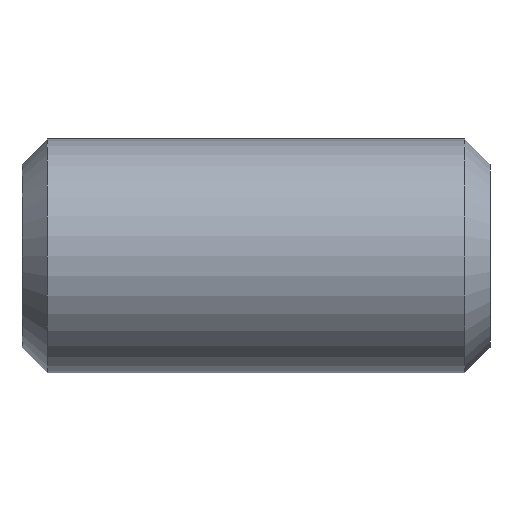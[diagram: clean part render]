
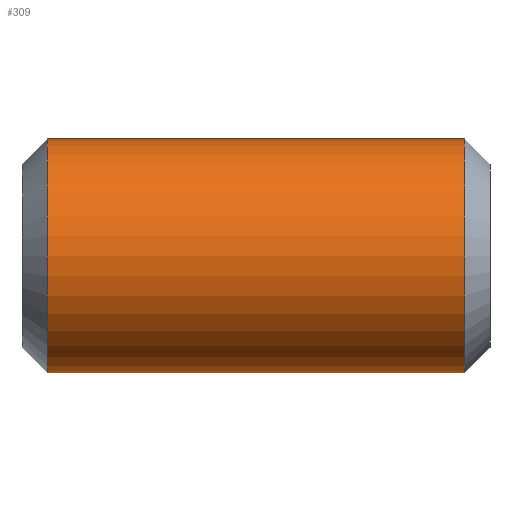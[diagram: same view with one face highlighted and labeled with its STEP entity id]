
A CAD part, left-side view. The second image highlights one B-rep face of the part: STEP entity #309.
In plain terms, the highlighted cylindrical face has radius 3 mm (diameter 6 mm), a full revolution.
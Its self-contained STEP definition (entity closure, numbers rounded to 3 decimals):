
#21=CYLINDRICAL_SURFACE('',#346,3.);
#84=ORIENTED_EDGE('',*,*,#159,.F.);
#85=ORIENTED_EDGE('',*,*,#158,.T.);
#158=EDGE_CURVE('',#196,#196,#217,.T.);
#159=EDGE_CURVE('',#197,#197,#218,.T.);
#196=VERTEX_POINT('',#494);
#197=VERTEX_POINT('',#497);
#217=CIRCLE('',#345,3.);
#218=CIRCLE('',#347,3.);
#234=EDGE_LOOP('',(#84));
#235=EDGE_LOOP('',(#85));
#264=FACE_BOUND('',#234,.T.);
#265=FACE_BOUND('',#235,.T.);
#309=ADVANCED_FACE('',(#264,#265),#21,.T.);
#345=AXIS2_PLACEMENT_3D('',#493,#392,#393);
#346=AXIS2_PLACEMENT_3D('',#495,#394,#395);
#347=AXIS2_PLACEMENT_3D('',#496,#396,#397);
#392=DIRECTION('',(0.,-1.,0.));
#393=DIRECTION('',(0.,0.,-1.));
#394=DIRECTION('',(0.,-1.,0.));
#395=DIRECTION('',(0.,0.,-1.));
#396=DIRECTION('',(0.,-1.,0.));
#397=DIRECTION('',(0.,0.,-1.));
#493=CARTESIAN_POINT('',(0.,11.35,0.));
#494=CARTESIAN_POINT('',(0.,11.35,-3.));
#495=CARTESIAN_POINT('',(0.,0.,0.));
#496=CARTESIAN_POINT('',(0.,0.65,0.));
#497=CARTESIAN_POINT('',(0.,0.65,-3.));
